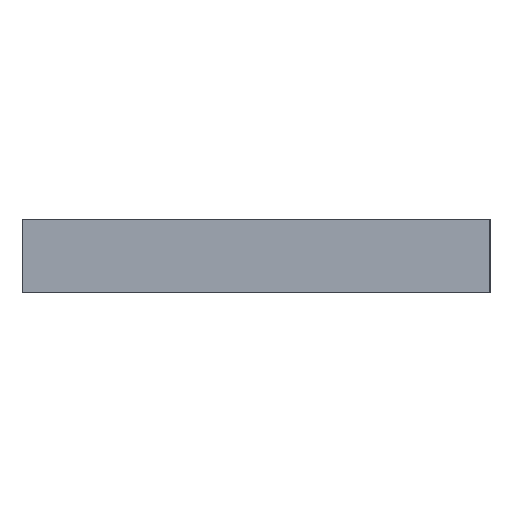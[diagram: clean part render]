
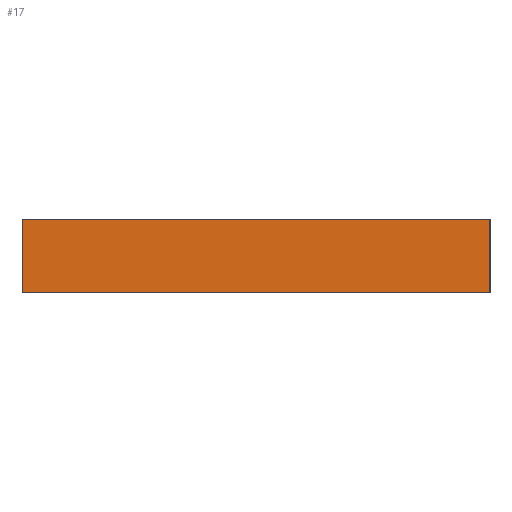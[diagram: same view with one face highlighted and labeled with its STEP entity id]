
A CAD part, left-side view. The second image highlights one B-rep face of the part: STEP entity #17.
In plain terms, the highlighted planar face has unit normal (-1, 0, 0).
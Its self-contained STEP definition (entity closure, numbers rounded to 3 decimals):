
#17 = ADVANCED_FACE('',(#18),#32,.F.);
#18 = FACE_BOUND('',#19,.F.);
#19 = EDGE_LOOP('',(#20,#55,#83,#111));
#20 = ORIENTED_EDGE('',*,*,#21,.F.);
#21 = EDGE_CURVE('',#22,#24,#26,.T.);
#22 = VERTEX_POINT('',#23);
#23 = CARTESIAN_POINT('',(0.,0.,0.));
#24 = VERTEX_POINT('',#25);
#25 = CARTESIAN_POINT('',(0.,0.,8.));
#26 = SURFACE_CURVE('',#27,(#31,#43),.PCURVE_S1.);
#27 = LINE('',#28,#29);
#28 = CARTESIAN_POINT('',(0.,0.,0.));
#29 = VECTOR('',#30,1.);
#30 = DIRECTION('',(0.,0.,1.));
#31 = PCURVE('',#32,#37);
#32 = PLANE('',#33);
#33 = AXIS2_PLACEMENT_3D('',#34,#35,#36);
#34 = CARTESIAN_POINT('',(0.,0.,0.));
#35 = DIRECTION('',(1.,0.,-0.));
#36 = DIRECTION('',(0.,0.,1.));
#37 = DEFINITIONAL_REPRESENTATION('',(#38),#42);
#38 = LINE('',#39,#40);
#39 = CARTESIAN_POINT('',(0.,0.));
#40 = VECTOR('',#41,1.);
#41 = DIRECTION('',(1.,0.));
#42 = ( GEOMETRIC_REPRESENTATION_CONTEXT(2) 
PARAMETRIC_REPRESENTATION_CONTEXT() REPRESENTATION_CONTEXT('2D SPACE',''
  ) );
#43 = PCURVE('',#44,#49);
#44 = PLANE('',#45);
#45 = AXIS2_PLACEMENT_3D('',#46,#47,#48);
#46 = CARTESIAN_POINT('',(0.,0.,0.));
#47 = DIRECTION('',(-0.,1.,0.));
#48 = DIRECTION('',(0.,0.,1.));
#49 = DEFINITIONAL_REPRESENTATION('',(#50),#54);
#50 = LINE('',#51,#52);
#51 = CARTESIAN_POINT('',(0.,0.));
#52 = VECTOR('',#53,1.);
#53 = DIRECTION('',(1.,0.));
#54 = ( GEOMETRIC_REPRESENTATION_CONTEXT(2) 
PARAMETRIC_REPRESENTATION_CONTEXT() REPRESENTATION_CONTEXT('2D SPACE',''
  ) );
#55 = ORIENTED_EDGE('',*,*,#56,.T.);
#56 = EDGE_CURVE('',#22,#57,#59,.T.);
#57 = VERTEX_POINT('',#58);
#58 = CARTESIAN_POINT('',(0.,51.,0.));
#59 = SURFACE_CURVE('',#60,(#64,#71),.PCURVE_S1.);
#60 = LINE('',#61,#62);
#61 = CARTESIAN_POINT('',(0.,0.,0.));
#62 = VECTOR('',#63,1.);
#63 = DIRECTION('',(-0.,1.,0.));
#64 = PCURVE('',#32,#65);
#65 = DEFINITIONAL_REPRESENTATION('',(#66),#70);
#66 = LINE('',#67,#68);
#67 = CARTESIAN_POINT('',(0.,0.));
#68 = VECTOR('',#69,1.);
#69 = DIRECTION('',(0.,-1.));
#70 = ( GEOMETRIC_REPRESENTATION_CONTEXT(2) 
PARAMETRIC_REPRESENTATION_CONTEXT() REPRESENTATION_CONTEXT('2D SPACE',''
  ) );
#71 = PCURVE('',#72,#77);
#72 = PLANE('',#73);
#73 = AXIS2_PLACEMENT_3D('',#74,#75,#76);
#74 = CARTESIAN_POINT('',(0.,0.,0.));
#75 = DIRECTION('',(0.,0.,1.));
#76 = DIRECTION('',(1.,0.,-0.));
#77 = DEFINITIONAL_REPRESENTATION('',(#78),#82);
#78 = LINE('',#79,#80);
#79 = CARTESIAN_POINT('',(0.,0.));
#80 = VECTOR('',#81,1.);
#81 = DIRECTION('',(0.,1.));
#82 = ( GEOMETRIC_REPRESENTATION_CONTEXT(2) 
PARAMETRIC_REPRESENTATION_CONTEXT() REPRESENTATION_CONTEXT('2D SPACE',''
  ) );
#83 = ORIENTED_EDGE('',*,*,#84,.T.);
#84 = EDGE_CURVE('',#57,#85,#87,.T.);
#85 = VERTEX_POINT('',#86);
#86 = CARTESIAN_POINT('',(0.,51.,8.));
#87 = SURFACE_CURVE('',#88,(#92,#99),.PCURVE_S1.);
#88 = LINE('',#89,#90);
#89 = CARTESIAN_POINT('',(0.,51.,0.));
#90 = VECTOR('',#91,1.);
#91 = DIRECTION('',(0.,0.,1.));
#92 = PCURVE('',#32,#93);
#93 = DEFINITIONAL_REPRESENTATION('',(#94),#98);
#94 = LINE('',#95,#96);
#95 = CARTESIAN_POINT('',(0.,-51.));
#96 = VECTOR('',#97,1.);
#97 = DIRECTION('',(1.,0.));
#98 = ( GEOMETRIC_REPRESENTATION_CONTEXT(2) 
PARAMETRIC_REPRESENTATION_CONTEXT() REPRESENTATION_CONTEXT('2D SPACE',''
  ) );
#99 = PCURVE('',#100,#105);
#100 = PLANE('',#101);
#101 = AXIS2_PLACEMENT_3D('',#102,#103,#104);
#102 = CARTESIAN_POINT('',(0.,51.,0.));
#103 = DIRECTION('',(-0.,1.,0.));
#104 = DIRECTION('',(0.,0.,1.));
#105 = DEFINITIONAL_REPRESENTATION('',(#106),#110);
#106 = LINE('',#107,#108);
#107 = CARTESIAN_POINT('',(0.,0.));
#108 = VECTOR('',#109,1.);
#109 = DIRECTION('',(1.,0.));
#110 = ( GEOMETRIC_REPRESENTATION_CONTEXT(2) 
PARAMETRIC_REPRESENTATION_CONTEXT() REPRESENTATION_CONTEXT('2D SPACE',''
  ) );
#111 = ORIENTED_EDGE('',*,*,#112,.F.);
#112 = EDGE_CURVE('',#24,#85,#113,.T.);
#113 = SURFACE_CURVE('',#114,(#118,#125),.PCURVE_S1.);
#114 = LINE('',#115,#116);
#115 = CARTESIAN_POINT('',(0.,0.,8.));
#116 = VECTOR('',#117,1.);
#117 = DIRECTION('',(-0.,1.,0.));
#118 = PCURVE('',#32,#119);
#119 = DEFINITIONAL_REPRESENTATION('',(#120),#124);
#120 = LINE('',#121,#122);
#121 = CARTESIAN_POINT('',(8.,0.));
#122 = VECTOR('',#123,1.);
#123 = DIRECTION('',(0.,-1.));
#124 = ( GEOMETRIC_REPRESENTATION_CONTEXT(2) 
PARAMETRIC_REPRESENTATION_CONTEXT() REPRESENTATION_CONTEXT('2D SPACE',''
  ) );
#125 = PCURVE('',#126,#131);
#126 = PLANE('',#127);
#127 = AXIS2_PLACEMENT_3D('',#128,#129,#130);
#128 = CARTESIAN_POINT('',(0.,0.,8.));
#129 = DIRECTION('',(0.,0.,1.));
#130 = DIRECTION('',(1.,0.,-0.));
#131 = DEFINITIONAL_REPRESENTATION('',(#132),#136);
#132 = LINE('',#133,#134);
#133 = CARTESIAN_POINT('',(0.,0.));
#134 = VECTOR('',#135,1.);
#135 = DIRECTION('',(0.,1.));
#136 = ( GEOMETRIC_REPRESENTATION_CONTEXT(2) 
PARAMETRIC_REPRESENTATION_CONTEXT() REPRESENTATION_CONTEXT('2D SPACE',''
  ) );
